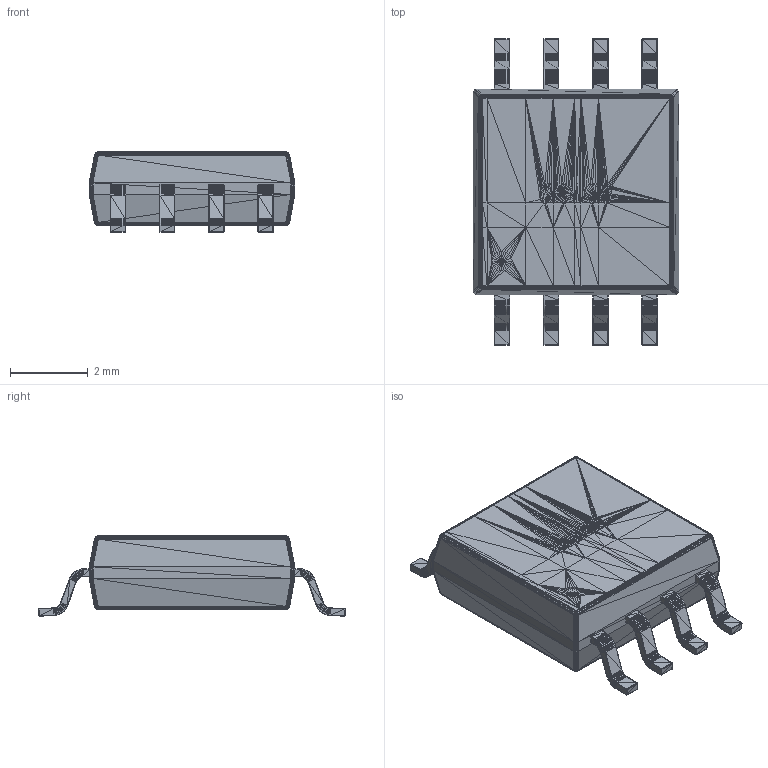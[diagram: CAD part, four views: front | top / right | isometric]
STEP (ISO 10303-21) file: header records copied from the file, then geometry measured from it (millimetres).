
FILE_DESCRIPTION(('auto-generated'),'2;1');
FILE_SCHEMA(('CONFIG_CONTROL_DESIGN'));
Bounding box: 5.3 x 7.91 x 2.07 mm (x, y, z)
Volume: 1.2 mm3; surface area: 107.8 mm2
Topology: 8 solids, 24 shells, 19458 faces, 29573 edges, 10133 vertices
Faces by surface type: plane 19458
Entity records: 283514 total; most frequent: ORIENTED_EDGE 58374, DIRECTION 32396, LINE 29573, EDGE_CURVE 29573, AXIS2_PLACEMENT_3D 19459, PLANE 19458, EDGE_LOOP 19458, FACE_BOUND 19458
